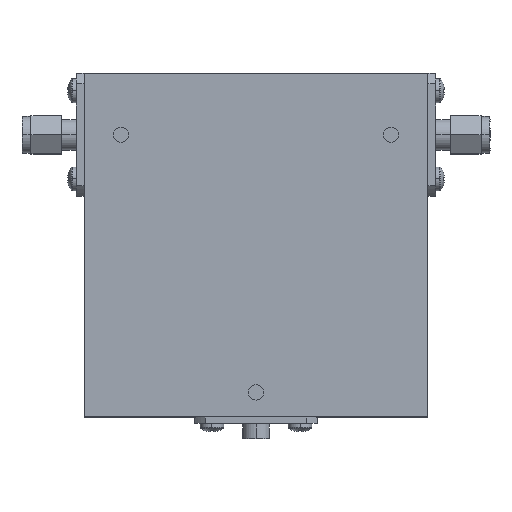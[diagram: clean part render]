
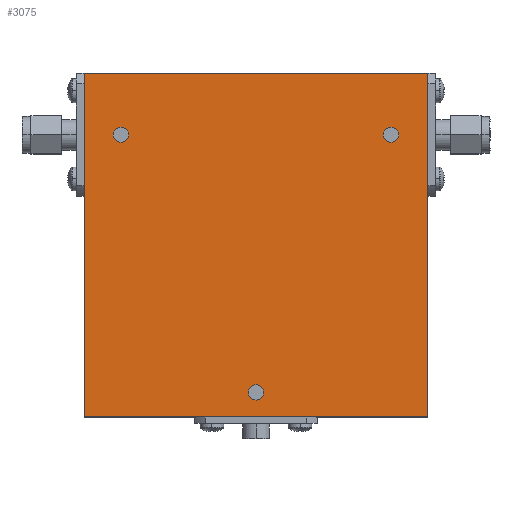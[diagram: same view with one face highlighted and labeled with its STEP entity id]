
A CAD part, top view. The second image highlights one B-rep face of the part: STEP entity #3075.
In plain terms, the highlighted planar face has unit normal (0, 0, 1).
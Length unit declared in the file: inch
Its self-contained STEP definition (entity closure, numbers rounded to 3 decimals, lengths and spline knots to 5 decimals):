
#10 = CIRCLE ( 'NONE', #2093, 0.0625 ) ;
#63 = DIRECTION ( 'NONE',  ( 0., 0., 1. ) ) ;
#176 = VERTEX_POINT ( 'NONE', #910 ) ;
#205 = DIRECTION ( 'NONE',  ( 0., 0., 1. ) ) ;
#227 = EDGE_LOOP ( 'NONE', ( #675, #3155 ) ) ;
#268 = VERTEX_POINT ( 'NONE', #1649 ) ;
#275 = DIRECTION ( 'NONE',  ( 0., 0., 1. ) ) ;
#290 = VERTEX_POINT ( 'NONE', #295 ) ;
#295 = CARTESIAN_POINT ( 'NONE',  ( -1.4, -1.4, 0.5 ) ) ;
#419 = CARTESIAN_POINT ( 'NONE',  ( -1.4, 1.4, 0.5 ) ) ;
#490 = EDGE_CURVE ( 'NONE', #1341, #2901, #1079, .T. ) ;
#500 = CARTESIAN_POINT ( 'NONE',  ( -0.0625, -1.2, 0.5 ) ) ;
#524 = PLANE ( 'NONE',  #884 ) ;
#527 = LINE ( 'NONE', #2543, #3550 ) ;
#568 = EDGE_CURVE ( 'NONE', #1039, #2507, #1186, .T. ) ;
#626 = ORIENTED_EDGE ( 'NONE', *, *, #752, .F. ) ;
#675 = ORIENTED_EDGE ( 'NONE', *, *, #3568, .F. ) ;
#727 = ORIENTED_EDGE ( 'NONE', *, *, #2002, .F. ) ;
#744 = DIRECTION ( 'NONE',  ( 1., 0., 0. ) ) ;
#752 = EDGE_CURVE ( 'NONE', #3534, #268, #3567, .T. ) ;
#884 = AXIS2_PLACEMENT_3D ( 'NONE', #3895, #1207, #1865 ) ;
#910 = CARTESIAN_POINT ( 'NONE',  ( 1.4, -1.4, 0.5 ) ) ;
#965 = VECTOR ( 'NONE', #3173, 39.37008 ) ;
#1005 = VECTOR ( 'NONE', #2795, 39.37008 ) ;
#1039 = VERTEX_POINT ( 'NONE', #3496 ) ;
#1065 = FACE_BOUND ( 'NONE', #227, .T. ) ;
#1079 = CIRCLE ( 'NONE', #1439, 0.0625 ) ;
#1109 = DIRECTION ( 'NONE',  ( 0., 0., 1. ) ) ;
#1186 = LINE ( 'NONE', #2149, #965 ) ;
#1207 = DIRECTION ( 'NONE',  ( 0., 0., 1. ) ) ;
#1239 = VERTEX_POINT ( 'NONE', #500 ) ;
#1268 = EDGE_CURVE ( 'NONE', #1239, #1927, #10, .T. ) ;
#1341 = VERTEX_POINT ( 'NONE', #2647 ) ;
#1370 = CIRCLE ( 'NONE', #2594, 0.0625 ) ;
#1374 = FACE_BOUND ( 'NONE', #3002, .T. ) ;
#1439 = AXIS2_PLACEMENT_3D ( 'NONE', #1776, #1109, #3487 ) ;
#1478 = DIRECTION ( 'NONE',  ( 1., 0., 0. ) ) ;
#1512 = AXIS2_PLACEMENT_3D ( 'NONE', #3638, #2609, #3973 ) ;
#1649 = CARTESIAN_POINT ( 'NONE',  ( -1.1625, 0.9, 0.5 ) ) ;
#1724 = AXIS2_PLACEMENT_3D ( 'NONE', #2966, #205, #3965 ) ;
#1776 = CARTESIAN_POINT ( 'NONE',  ( 1.1, 0.9, 0.5 ) ) ;
#1865 = DIRECTION ( 'NONE',  ( 1., 0., 0. ) ) ;
#1927 = VERTEX_POINT ( 'NONE', #3254 ) ;
#1969 = CARTESIAN_POINT ( 'NONE',  ( 0., -1.2, 0.5 ) ) ;
#2002 = EDGE_CURVE ( 'NONE', #268, #3534, #3687, .T. ) ;
#2031 = ORIENTED_EDGE ( 'NONE', *, *, #2235, .T. ) ;
#2042 = ORIENTED_EDGE ( 'NONE', *, *, #3651, .T. ) ;
#2093 = AXIS2_PLACEMENT_3D ( 'NONE', #1969, #275, #4299 ) ;
#2149 = CARTESIAN_POINT ( 'NONE',  ( -1.4, 1.4, 0.5 ) ) ;
#2159 = DIRECTION ( 'NONE',  ( 0., 0., 1. ) ) ;
#2235 = EDGE_CURVE ( 'NONE', #2507, #290, #2286, .T. ) ;
#2286 = LINE ( 'NONE', #419, #2384 ) ;
#2384 = VECTOR ( 'NONE', #2655, 39.37008 ) ;
#2400 = AXIS2_PLACEMENT_3D ( 'NONE', #3889, #2159, #3572 ) ;
#2448 = CARTESIAN_POINT ( 'NONE',  ( 1.1, 0.9, 0.5 ) ) ;
#2455 = CARTESIAN_POINT ( 'NONE',  ( 1.4, 1.4, 0.5 ) ) ;
#2468 = ORIENTED_EDGE ( 'NONE', *, *, #4258, .F. ) ;
#2507 = VERTEX_POINT ( 'NONE', #3334 ) ;
#2514 = CARTESIAN_POINT ( 'NONE',  ( -1.0375, 0.9, 0.5 ) ) ;
#2543 = CARTESIAN_POINT ( 'NONE',  ( -1.4, -1.4, 0.5 ) ) ;
#2594 = AXIS2_PLACEMENT_3D ( 'NONE', #2448, #63, #744 ) ;
#2609 = DIRECTION ( 'NONE',  ( 0., 0., 1. ) ) ;
#2647 = CARTESIAN_POINT ( 'NONE',  ( 1.0375, 0.9, 0.5 ) ) ;
#2655 = DIRECTION ( 'NONE',  ( 0., -1., 0. ) ) ;
#2795 = DIRECTION ( 'NONE',  ( 0., 1., 0. ) ) ;
#2801 = EDGE_CURVE ( 'NONE', #176, #1039, #3708, .T. ) ;
#2901 = VERTEX_POINT ( 'NONE', #3220 ) ;
#2908 = CIRCLE ( 'NONE', #2400, 0.0625 ) ;
#2965 = FACE_BOUND ( 'NONE', #3711, .T. ) ;
#2966 = CARTESIAN_POINT ( 'NONE',  ( -1.1, 0.9, 0.5 ) ) ;
#3002 = EDGE_LOOP ( 'NONE', ( #626, #727 ) ) ;
#3038 = ORIENTED_EDGE ( 'NONE', *, *, #2801, .T. ) ;
#3067 = EDGE_LOOP ( 'NONE', ( #3038, #3707, #2031, #2042 ) ) ;
#3075 = ADVANCED_FACE ( 'NONE', ( #2965, #1065, #1374, #4074 ), #524, .T. ) ;
#3101 = ORIENTED_EDGE ( 'NONE', *, *, #490, .F. ) ;
#3155 = ORIENTED_EDGE ( 'NONE', *, *, #1268, .F. ) ;
#3173 = DIRECTION ( 'NONE',  ( -1., 0., 0. ) ) ;
#3220 = CARTESIAN_POINT ( 'NONE',  ( 1.1625, 0.9, 0.5 ) ) ;
#3254 = CARTESIAN_POINT ( 'NONE',  ( 0.0625, -1.2, 0.5 ) ) ;
#3334 = CARTESIAN_POINT ( 'NONE',  ( -1.4, 1.4, 0.5 ) ) ;
#3487 = DIRECTION ( 'NONE',  ( 1., 0., 0. ) ) ;
#3496 = CARTESIAN_POINT ( 'NONE',  ( 1.4, 1.4, 0.5 ) ) ;
#3534 = VERTEX_POINT ( 'NONE', #2514 ) ;
#3550 = VECTOR ( 'NONE', #1478, 39.37008 ) ;
#3567 = CIRCLE ( 'NONE', #1724, 0.0625 ) ;
#3568 = EDGE_CURVE ( 'NONE', #1927, #1239, #2908, .T. ) ;
#3572 = DIRECTION ( 'NONE',  ( 1., 0., 0. ) ) ;
#3638 = CARTESIAN_POINT ( 'NONE',  ( -1.1, 0.9, 0.5 ) ) ;
#3651 = EDGE_CURVE ( 'NONE', #290, #176, #527, .T. ) ;
#3687 = CIRCLE ( 'NONE', #1512, 0.0625 ) ;
#3707 = ORIENTED_EDGE ( 'NONE', *, *, #568, .T. ) ;
#3708 = LINE ( 'NONE', #2455, #1005 ) ;
#3711 = EDGE_LOOP ( 'NONE', ( #2468, #3101 ) ) ;
#3889 = CARTESIAN_POINT ( 'NONE',  ( 0., -1.2, 0.5 ) ) ;
#3895 = CARTESIAN_POINT ( 'NONE',  ( 0., 0., 0.5 ) ) ;
#3965 = DIRECTION ( 'NONE',  ( 1., 0., 0. ) ) ;
#3973 = DIRECTION ( 'NONE',  ( 1., 0., 0. ) ) ;
#4074 = FACE_OUTER_BOUND ( 'NONE', #3067, .T. ) ;
#4258 = EDGE_CURVE ( 'NONE', #2901, #1341, #1370, .T. ) ;
#4299 = DIRECTION ( 'NONE',  ( 1., 0., 0. ) ) ;
